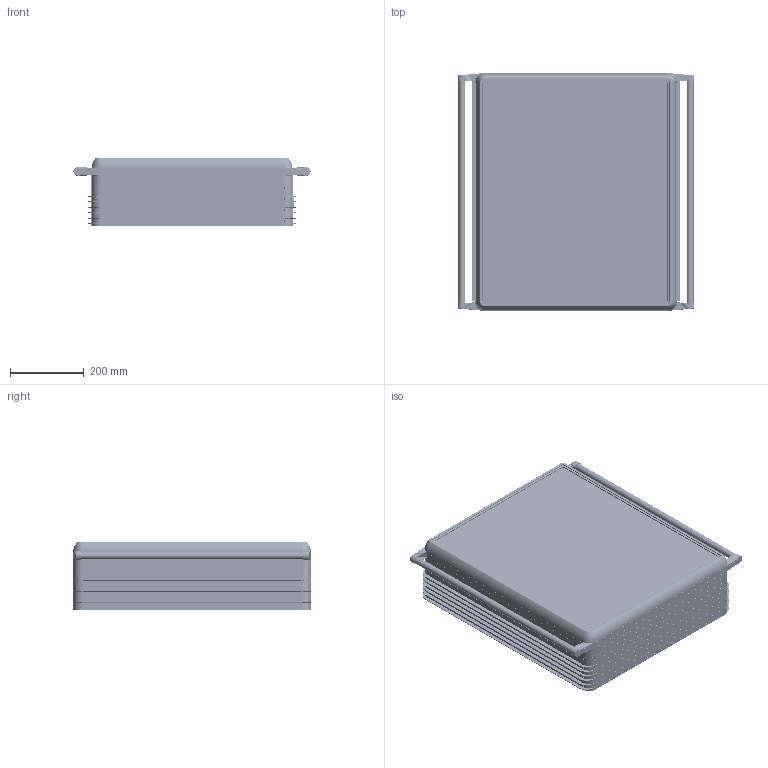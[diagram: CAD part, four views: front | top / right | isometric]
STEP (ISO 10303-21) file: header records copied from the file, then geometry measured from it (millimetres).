
FILE_DESCRIPTION (( 'STEP AP214' ), '1' );
FILE_NAME ('9091-0215.STEP', '2022-04-25T05:26:36', ( '' ), ( '' ), 'SwSTEP 2.0', 'SolidWorks 2022', '' );
FILE_SCHEMA (( 'AUTOMOTIVE_DESIGN' ));
Length unit declared in the file: millimetre
Products named in the file (16): x91 delikli 595_595; HPECOX-090-001_495; ECO90X(SAÐ)_Soðutmalý; ECO9000-0100(SAÐ); HPECO-090-001-295_595; HPECOX-090-002_595; 500X600; KLTECO-001-00; 9091-0215; HPECO-090-001-295_494; ECO90X(SOL)_Soðutmalý; boru_625; x91 vidalý 500X600; ECO9000-0100(SOL); 9000-0215; ARKA_KAPAK_VÝDALI_500X600
Assembly tree (24 placements, depth 3):
  9091-0215
    9000-0215
      500X600
      boru_625  x2
      ECO9000-0100(SAÐ)  x2
      ECO9000-0100(SOL)  x2
      HPECO-090-001-295_494  x2
      HPECO-090-001-295_595  x2
    x91 vidalý 500X600
      ARKA_KAPAK_VÝDALI_500X600
      HPECOX-090-001_495  x2
      HPECOX-090-002_595
      KLTECO-001-00  x2
      ECO90X(SAÐ)_Soðutmalý  x2
      ECO90X(SOL)_Soðutmalý  x2
      x91 delikli 595_595
Bounding box: 644.57 x 647 x 187.51 mm (x, y, z)
Volume: 6789448.3 mm3; surface area: 3411287 mm2
Topology: 52 solids, 52 shells, 10576 faces, 27064 edges, 16408 vertices
Faces by surface type: plane 3628, bspline 3094, cylinder 2788, cone 610, torus 368, sphere 88
Entity records: 256080 total; most frequent: CARTESIAN_POINT 87134, ORIENTED_EDGE 27526, DIRECTION 20143, EDGE_CURVE 13763, VERTEX_POINT 8450, AXIS2_PLACEMENT_3D 7102, VECTOR 5939, LINE 5939
